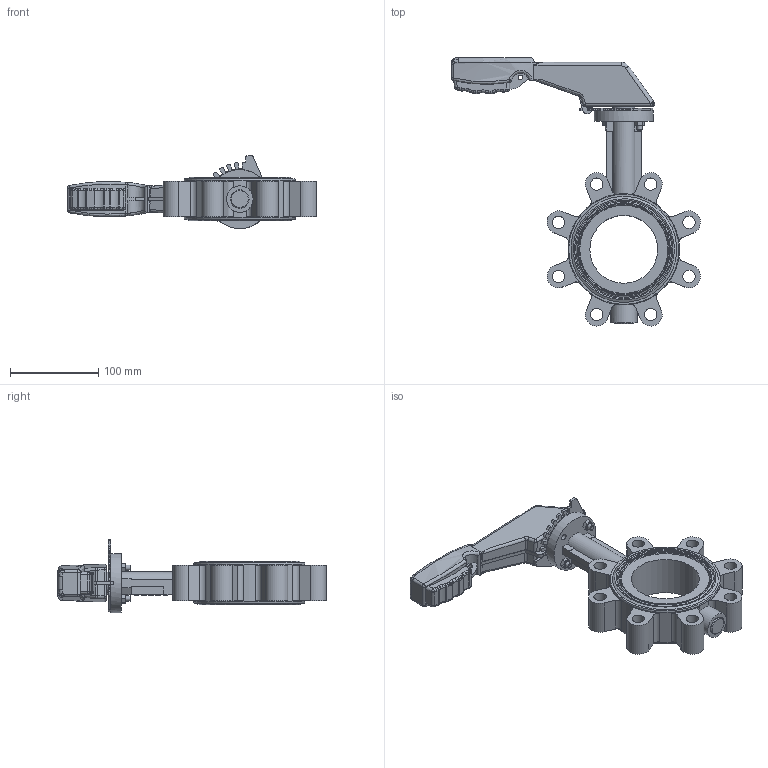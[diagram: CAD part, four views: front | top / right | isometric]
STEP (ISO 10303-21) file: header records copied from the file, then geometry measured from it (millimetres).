
FILE_DESCRIPTION((''),'2;1');
FILE_NAME('K:\Inventor\1 Artikel\10) Absperrklappen\10a) manuell\Witzel\835-GGG, Euronomic BB\835-GGG, DN80\835-GGG, DN80, 3D\835-GGG, DN80, PN10-16, HH, 3D.stp','2019-08-14T10:24:39',('claudia'),(''),'Autodesk Inventor 2013','Autodesk Inventor 2013','');
FILE_SCHEMA(('AUTOMOTIVE_DESIGN { 1 0 10303 214 1 1 1 1 }'));
Length unit declared in the file: millimetre
Products named in the file (1): Bauteil10
Bounding box: 282.15 x 303.9 x 83.12 mm (x, y, z)
Volume: 970562.8 mm3; surface area: 144536.3 mm2
Topology: 1 solids, 2 shells, 1312 faces, 3520 edges, 2298 vertices
Faces by surface type: plane 566, bspline 458, cylinder 189, cone 47, torus 38, sphere 14
Full cylindrical faces by diameter (mm): 5 x1, 5.387 x2, 6 x4, 7 x4, 8 x2, 11.3 x2, 14 x8, 21 x1, 25 x1, 27 x1, 30 x1, 67 x1, 76.9 x1, 120 x2, 126 x1
Entity records: 48818 total; most frequent: CARTESIAN_POINT 18924, ORIENTED_EDGE 6858, DIRECTION 4688, EDGE_CURVE 3429, VERTEX_POINT 2281, VECTOR 1814, LINE 1814, EDGE_LOOP 1492
